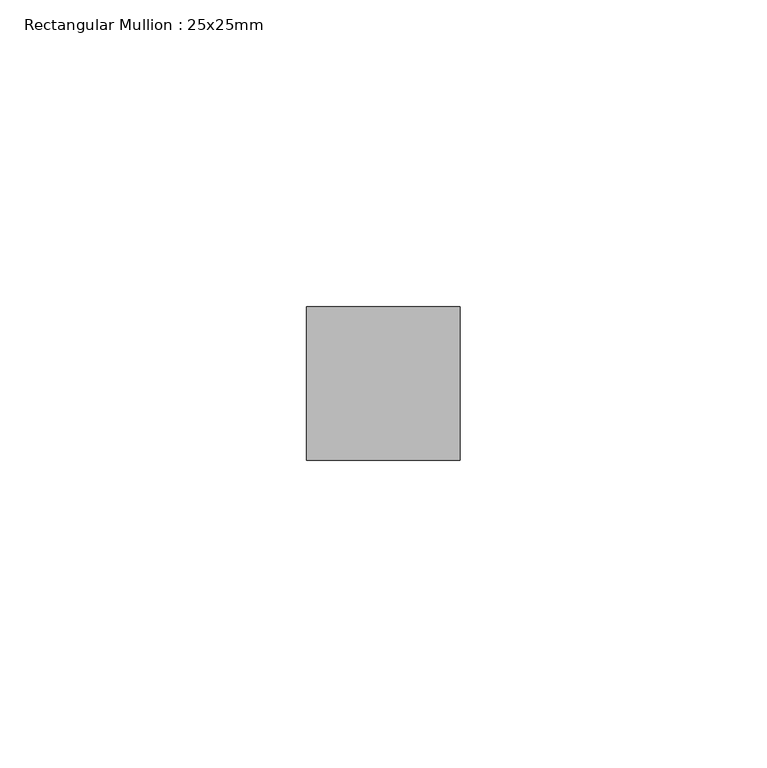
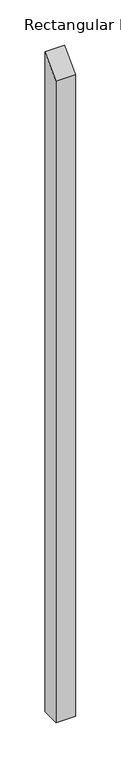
"""IFC4 building model written with IfcOpenShell, lengths in millimetres: member geometry, Rectangular Mullion : 25x25mm."""

from ifc_helpers import new_model, si_unit, frame, origin, place, context, project, spatial, polyline, outline, extrude, source, transform, mapped, element, save


def rectangular_mullion_25x25mm_4c6f7a3a(model_context):
    return source(origin(), model_context, "Body", "SweptSolid", [
        extrude(outline(polyline([(-0.5, -0.5), (24.5, 24.5), (24.5, -868.7836067), (-0.5, -868.7836067), (-0.5, -0.5)])), frame((-25.0, 0.0, 0.0), z_axis=(1.0, 0.0, 0.0), x_axis=(0.0, 1.0, 0.0)), (0.0, 0.0, 1.0), 25.0),
    ])


if __name__ == "__main__":
    model = new_model("IFC4")
    model_context = context("Model", 3, world=origin())
    ifc_project = project(units=[si_unit("LENGTHUNIT", "METRE", prefix="MILLI")], contexts=[model_context])
    site = spatial("IfcSite", under=ifc_project)
    building = spatial("IfcBuilding", under=site)
    placement = place(None, origin())
    rectangular_mullion_25x25mm_shape = rectangular_mullion_25x25mm_4c6f7a3a(model_context)
    element("IfcMember", 1, ObjectType="Rectangular Mullion : 25x25mm", at=placement, inside=building, context=model_context, shape_type="MappedRepresentation", body=[
        mapped(rectangular_mullion_25x25mm_shape, transform((0.0, 0.0, 0.0), x_axis=(1.0, 0.0, 0.0), y_axis=(0.0, 1.0, 0.0), z_axis=(0.0, 0.0, 1.0))),
    ])
    save(model, "model.ifc")
